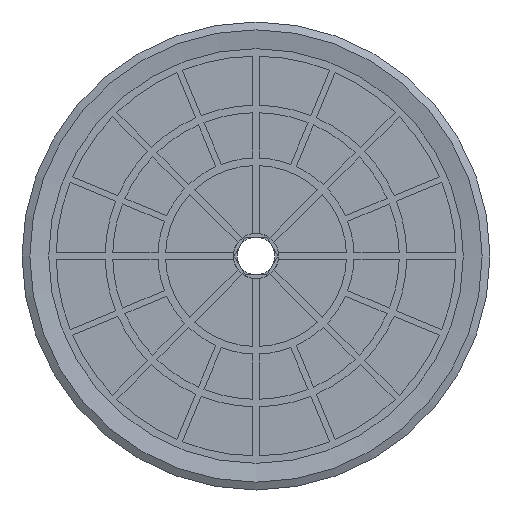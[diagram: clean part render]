
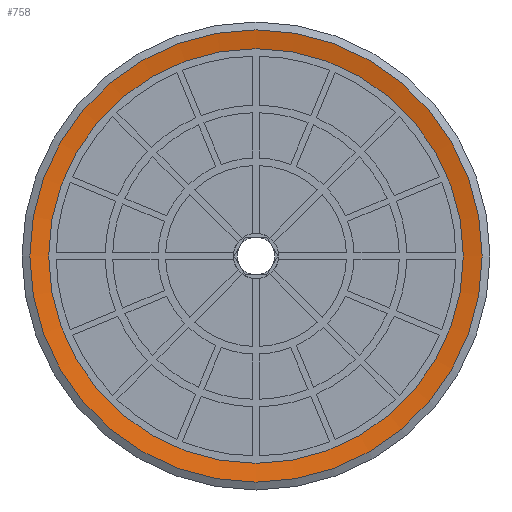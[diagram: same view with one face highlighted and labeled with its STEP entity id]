
A CAD part, front view. The second image highlights one B-rep face of the part: STEP entity #758.
In plain terms, the highlighted conical face has half-angle 80 degrees and reference radius 15 mm.
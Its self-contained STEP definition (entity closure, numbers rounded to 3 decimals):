
#758=ADVANCED_FACE('',(#1404,#1405),#1406,.F.);
#1404=FACE_BOUND('',#2190,.T.);
#1405=FACE_OUTER_BOUND('',#2191,.T.);
#1406=CONICAL_SURFACE('',#2192,15.0,1.396);
#2190=EDGE_LOOP('',(#4106));
#2191=EDGE_LOOP('',(#4107));
#2192=AXIS2_PLACEMENT_3D('',#4108,#4109,#4110);
#4106=ORIENTED_EDGE('',*,*,#5478,.T.);
#4107=ORIENTED_EDGE('',*,*,#5546,.F.);
#4108=CARTESIAN_POINT('',(0.0,0.,0.));
#4109=DIRECTION('',(0.0,0.,-1.0));
#4110=DIRECTION('',(0.0,1.0,0.));
#5478=EDGE_CURVE('',#6620,#6620,#6621,.T.);
#5546=EDGE_CURVE('',#6735,#6735,#6736,.T.);
#6620=VERTEX_POINT('',#8517);
#6621=CIRCLE('',#8518,13.75);
#6735=VERTEX_POINT('',#8676);
#6736=CIRCLE('',#8677,15.0);
#8517=CARTESIAN_POINT('',(0.0,-13.75,0.22));
#8518=AXIS2_PLACEMENT_3D('',#9844,#9845,#9846);
#8676=CARTESIAN_POINT('',(0.0,-15.0,0.));
#8677=AXIS2_PLACEMENT_3D('',#9960,#9961,#9962);
#9844=CARTESIAN_POINT('',(0.0,0.,0.22));
#9845=DIRECTION('',(0.0,0.,1.0));
#9846=DIRECTION('',(0.0,-1.0,0.));
#9960=CARTESIAN_POINT('',(0.0,0.,0.));
#9961=DIRECTION('',(0.0,0.,1.0));
#9962=DIRECTION('',(0.0,-1.0,0.));
